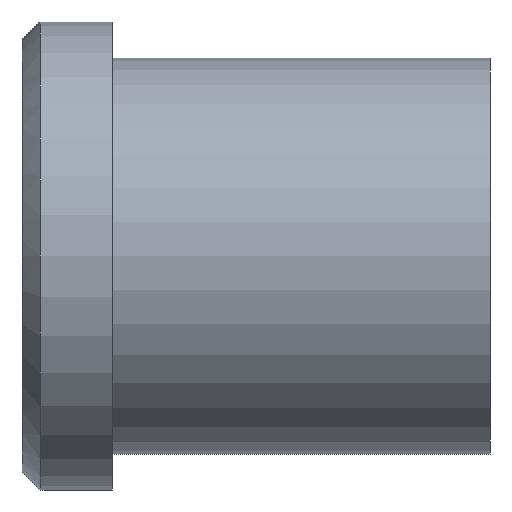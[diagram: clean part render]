
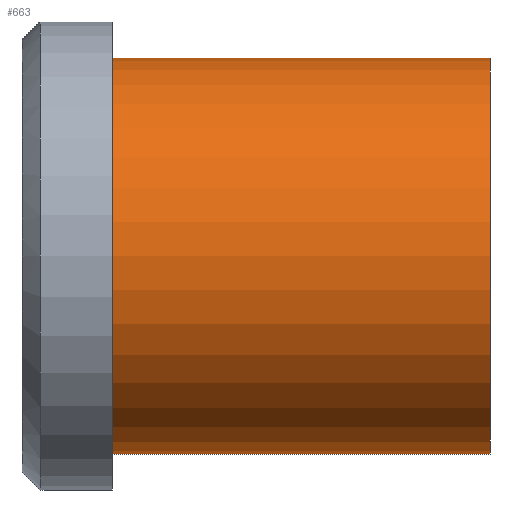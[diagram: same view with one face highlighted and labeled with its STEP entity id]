
A CAD part, front view. The second image highlights one B-rep face of the part: STEP entity #663.
In plain terms, the highlighted cylindrical face has radius 11 mm (diameter 22 mm), a partial arc.
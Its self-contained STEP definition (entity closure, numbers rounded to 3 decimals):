
#501=CARTESIAN_POINT('Vertex',(0.,0.,-11.)) ;
#506=CARTESIAN_POINT('Axis2P3D Location',(0.,0.,0.)) ;
#510=CARTESIAN_POINT('Vertex',(0.,-11.,0.)) ;
#513=CARTESIAN_POINT('Axis2P3D Location',(0.,0.,0.)) ;
#517=CARTESIAN_POINT('Vertex',(0.,0.,11.)) ;
#603=CARTESIAN_POINT('Line Origine',(21.,0.,11.)) ;
#607=CARTESIAN_POINT('Vertex',(21.,0.,11.)) ;
#621=CARTESIAN_POINT('Vertex',(21.,0.,-11.)) ;
#624=CARTESIAN_POINT('Line Origine',(21.,0.,-11.)) ;
#638=CARTESIAN_POINT('Axis2P3D Location',(21.,0.,0.)) ;
#643=CARTESIAN_POINT('Axis2P3D Location',(21.,0.,0.)) ;
#647=CARTESIAN_POINT('Vertex',(21.,-11.,0.)) ;
#650=CARTESIAN_POINT('Axis2P3D Location',(21.,0.,0.)) ;
#507=DIRECTION('Axis2P3D Direction',(1.,0.,-0.)) ;
#514=DIRECTION('Axis2P3D Direction',(1.,0.,-0.)) ;
#604=DIRECTION('Vector Direction',(-1.,0.,0.)) ;
#625=DIRECTION('Vector Direction',(-1.,0.,0.)) ;
#639=DIRECTION('Axis2P3D Direction',(-1.,-0.,-0.)) ;
#640=DIRECTION('Axis2P3D XDirection',(0.,0.,-1.)) ;
#644=DIRECTION('Axis2P3D Direction',(-1.,-0.,-0.)) ;
#651=DIRECTION('Axis2P3D Direction',(-1.,-0.,-0.)) ;
#508=AXIS2_PLACEMENT_3D('Circle Axis2P3D',#506,#507,$) ;
#515=AXIS2_PLACEMENT_3D('Circle Axis2P3D',#513,#514,$) ;
#641=AXIS2_PLACEMENT_3D('Cylinder Axis2P3D',#638,#639,#640) ;
#645=AXIS2_PLACEMENT_3D('Circle Axis2P3D',#643,#644,$) ;
#652=AXIS2_PLACEMENT_3D('Circle Axis2P3D',#650,#651,$) ;
#656=ORIENTED_EDGE('',*,*,#628,.T.) ;
#657=ORIENTED_EDGE('',*,*,#649,.F.) ;
#658=ORIENTED_EDGE('',*,*,#654,.F.) ;
#659=ORIENTED_EDGE('',*,*,#609,.T.) ;
#660=ORIENTED_EDGE('',*,*,#519,.T.) ;
#661=ORIENTED_EDGE('',*,*,#512,.T.) ;
#605=VECTOR('Line Direction',#604,1.) ;
#626=VECTOR('Line Direction',#625,1.) ;
#663=ADVANCED_FACE('353-16X26',(#662),#642,.T.) ;
#509=CIRCLE('generated circle',#508,11.) ;
#516=CIRCLE('generated circle',#515,11.) ;
#646=CIRCLE('generated circle',#645,11.) ;
#653=CIRCLE('generated circle',#652,11.) ;
#642=CYLINDRICAL_SURFACE('generated cylinder',#641,11.) ;
#512=EDGE_CURVE('',#511,#502,#509,.T.) ;
#519=EDGE_CURVE('',#518,#511,#516,.T.) ;
#609=EDGE_CURVE('',#608,#518,#606,.T.) ;
#628=EDGE_CURVE('',#502,#622,#627,.F.) ;
#649=EDGE_CURVE('',#648,#622,#646,.F.) ;
#654=EDGE_CURVE('',#608,#648,#653,.F.) ;
#655=EDGE_LOOP('',(#656,#657,#658,#659,#660,#661)) ;
#662=FACE_OUTER_BOUND('',#655,.T.) ;
#606=LINE('Line',#603,#605) ;
#627=LINE('Line',#624,#626) ;
#502=VERTEX_POINT('',#501) ;
#511=VERTEX_POINT('',#510) ;
#518=VERTEX_POINT('',#517) ;
#608=VERTEX_POINT('',#607) ;
#622=VERTEX_POINT('',#621) ;
#648=VERTEX_POINT('',#647) ;
